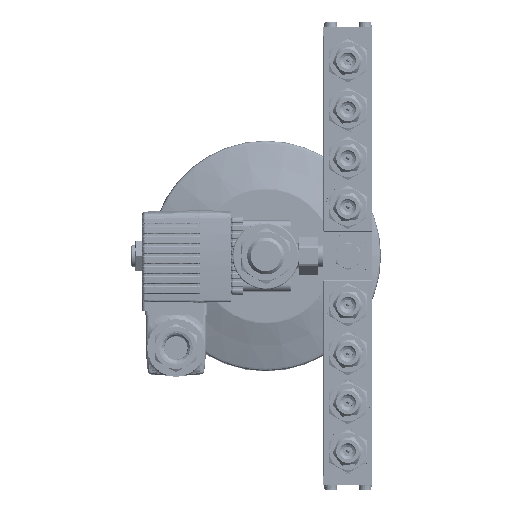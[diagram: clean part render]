
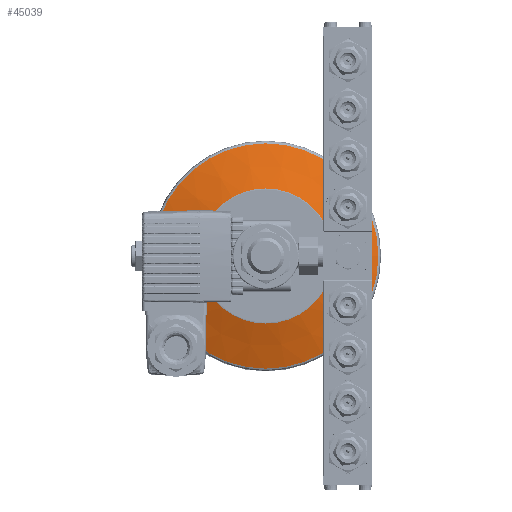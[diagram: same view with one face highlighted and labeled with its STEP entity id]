
A CAD part, left-side view. The second image highlights one B-rep face of the part: STEP entity #45039.
In plain terms, the highlighted conical face has half-angle 72.91 degrees and reference radius 50.726 mm.
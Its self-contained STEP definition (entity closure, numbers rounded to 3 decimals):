
#5804 = FACE_BOUND ( 'NONE', #316096, .T. ) ;
#8993 = CARTESIAN_POINT ( 'NONE',  ( 73.464, 0., 0. ) ) ;
#19184 = AXIS2_PLACEMENT_3D ( 'NONE', #8993, #54711, #110004 ) ;
#26853 = DIRECTION ( 'NONE',  ( 0., 1., 0. ) ) ;
#35024 = DIRECTION ( 'NONE',  ( 0., 0., -1. ) ) ;
#45021 = EDGE_CURVE ( 'NONE', #58361, #58361, #243042, .T. ) ;
#45039 = ADVANCED_FACE ( 'NONE', ( #5804, #80783 ), #81558, .T. ) ;
#54711 = DIRECTION ( 'NONE',  ( 1., 0., 0. ) ) ;
#58361 = VERTEX_POINT ( 'NONE', #79663 ) ;
#61088 = DIRECTION ( 'NONE',  ( 1., 0., 0. ) ) ;
#79203 = CARTESIAN_POINT ( 'NONE',  ( 79.705, 0., 0. ) ) ;
#79663 = CARTESIAN_POINT ( 'NONE',  ( 73.464, -30.426, 0. ) ) ;
#80783 = FACE_OUTER_BOUND ( 'NONE', #214074, .T. ) ;
#81558 = CONICAL_SURFACE ( 'NONE', #164809, 50.726, 1.273 ) ;
#110004 = DIRECTION ( 'NONE',  ( 0., -1., 0. ) ) ;
#147280 = EDGE_CURVE ( 'NONE', #170643, #170643, #314792, .T. ) ;
#164809 = AXIS2_PLACEMENT_3D ( 'NONE', #79203, #61088, #35024 ) ;
#170643 = VERTEX_POINT ( 'NONE', #319003 ) ;
#174198 = AXIS2_PLACEMENT_3D ( 'NONE', #197973, #297455, #26853 ) ;
#197973 = CARTESIAN_POINT ( 'NONE',  ( 79.705, 0., 0. ) ) ;
#202818 = ORIENTED_EDGE ( 'NONE', *, *, #147280, .F. ) ;
#214074 = EDGE_LOOP ( 'NONE', ( #202818 ) ) ;
#243042 = CIRCLE ( 'NONE', #19184, 30.426 ) ;
#268806 = ORIENTED_EDGE ( 'NONE', *, *, #45021, .T. ) ;
#297455 = DIRECTION ( 'NONE',  ( 1., 0., 0. ) ) ;
#314792 = CIRCLE ( 'NONE', #174198, 50.726 ) ;
#316096 = EDGE_LOOP ( 'NONE', ( #268806 ) ) ;
#319003 = CARTESIAN_POINT ( 'NONE',  ( 79.705, 50.726, 0. ) ) ;
